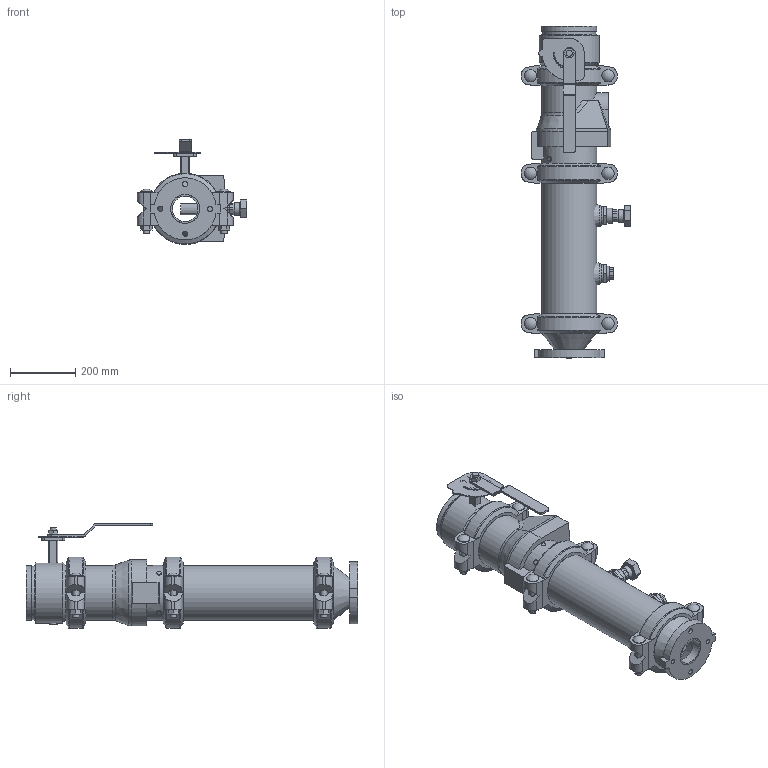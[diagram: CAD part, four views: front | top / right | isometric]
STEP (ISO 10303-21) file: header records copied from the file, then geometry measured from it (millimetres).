
FILE_DESCRIPTION(/* description */ ('VIC DVI PUMP DROP VERT S/380 (OGSxFLG) (S/924-1.25)','CAx-IF Rec.Pracs.---Representation and Presentation of Product Manufacturing Information (PMI)---4.0---2014-10-13'),/* implementation_level */ '2;1');
FILE_NAME(/* name */ 'C:\Users\Public\Documents\Victaulic.Temp\A765\Victaulic_IPS_Vertical DVI_CL 150_Series 380 (OGSxFLG)_924 (1.25)_06.0x03.0 (150x80).stp',/* time_stamp */ '2022-07-25T11:12:26+02:00',/* author */ ('Vjadhav'),/* organization */ ('Victaulic'),/* preprocessor_version */ 'ST-DEVELOPER v18',/* originating_system */ 'Autodesk Inventor 2020',/* authorisation */ '');
FILE_SCHEMA (('AP242_MANAGED_MODEL_BASED_3D_ENGINEERING_MIM_LF { 1 0 10303 442 1 1 4 }'));
Length unit declared in the file: inch
Products named in the file (9): 380_924 (1.25)-06.0x03.0; 741-03.0; 050-06.0x03.0; Pipe-06.0; 177N-06.0; 761-06.0; 779-06.0; 923-04.0x0.75; 924-04.0x01.25
Assembly tree (10 placements, depth 2):
  380_924 (1.25)-06.0x03.0
    741-03.0
    050-06.0x03.0
    177N-06.0  x3
    Pipe-06.0
    761-06.0
    779-06.0
    923-04.0x0.75
    924-04.0x01.25
Bounding box: 335.83 x 1019.17 x 322.07 mm (x, y, z)
Volume: 10854270.6 mm3; surface area: 1815007.7 mm2
Topology: 10 solids, 12 shells, 601 faces, 1561 edges, 1045 vertices
Faces by surface type: plane 356, cylinder 199, cone 20, torus 18, sphere 6, bspline 2
Full cylindrical faces by diameter (mm): 4.826 x10, 8.636 x4, 13.716 x4, 15.875 x4, 19.05 x8, 21.336 x1, 22.86 x1, 26.67 x2, 37.694 x6, 38.608 x1, 42.164 x1, 45.974 x4, 48.514 x1, 55.118 x1, 55.626 x2, 77.927 x1, 84.938 x1, 88.9 x3, 154.051 x4, 155.575 x3, 163.957 x7, 168.275 x19, 185.42 x1
Entity records: 14314 total; most frequent: CARTESIAN_POINT 2832, DIRECTION 2364, ORIENTED_EDGE 2150, EDGE_CURVE 1075, AXIS2_PLACEMENT_3D 895, VERTEX_POINT 725, LINE 574, VECTOR 574
